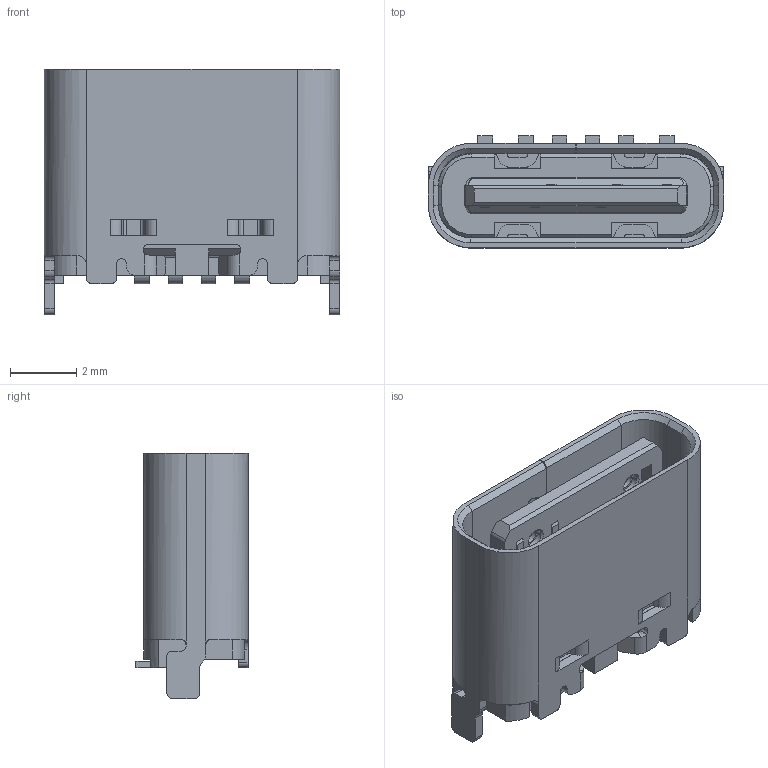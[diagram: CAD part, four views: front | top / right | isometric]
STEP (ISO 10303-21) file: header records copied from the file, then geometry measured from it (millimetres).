
FILE_DESCRIPTION (( 'STEP AP203' ), '1' );
FILE_NAME ('6P-蕾泂-6.5詢-党.STEP', '2022-01-11T09:30:00', ( 'Microsoft' ), ( 'Microsoft' ), 'SwSTEP 2.0', 'SolidWorks 2018', '' );
FILE_SCHEMA (( 'CONFIG_CONTROL_DESIGN' ));
Length unit declared in the file: millimetre
Products named in the file (2): 錨璃3^17004; 6P-蕾泂-6.5詢-党
Assembly tree (1 placements, depth 2):
  6P-蕾泂-6.5詢-党
    錨璃3^17004
Bounding box: 8.94 x 3.4 x 7.45 mm (x, y, z)
Volume: 91.3 mm3; surface area: 457.6 mm2
Topology: 1 solids, 1 shells, 609 faces, 1827 edges, 1196 vertices
Faces by surface type: plane 427, cylinder 160, cone 12, bspline 10
Entity records: 21201 total; most frequent: CARTESIAN_POINT 4340, ORIENTED_EDGE 3654, DIRECTION 3295, EDGE_CURVE 1827, VECTOR 1417, LINE 1417, VERTEX_POINT 1196, AXIS2_PLACEMENT_3D 939
